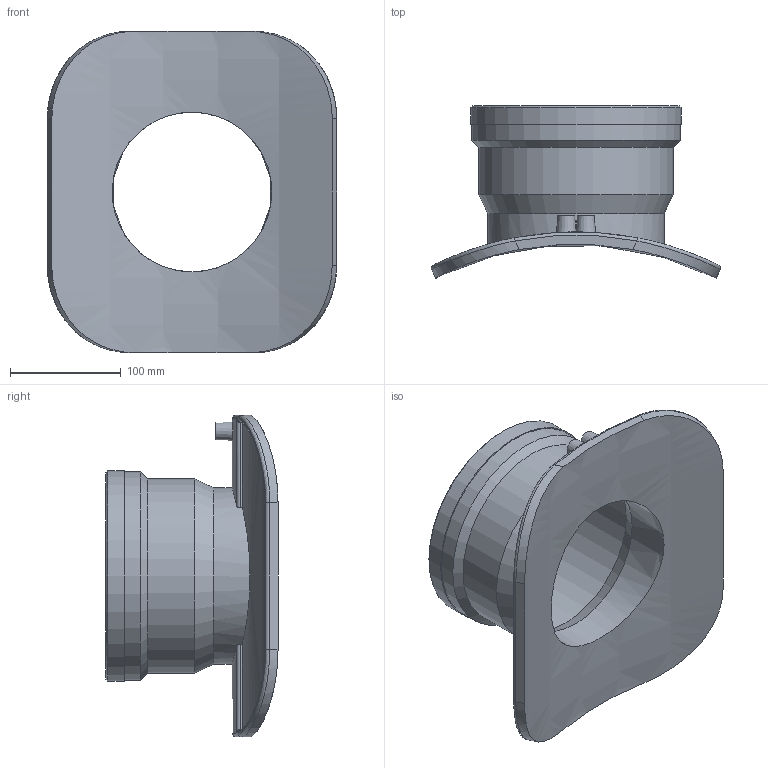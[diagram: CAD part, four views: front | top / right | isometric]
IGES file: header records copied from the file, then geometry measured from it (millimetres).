
Global section: file name: 4758V4560160.ipt; native system: Autodesk Inventor 2015; preprocessor: unknown; author: Кирилл,,11,0; organization: 20170830.202409; date: 20171106.093514; units: millimetre
Bounding box: 261.06 x 155.18 x 290 mm (x, y, z)
Volume: 1072211 mm3; surface area: 268017.1 mm2
Topology: 1 solids, 1 shells, 81 faces, 193 edges, 123 vertices
Faces by surface type: revolution 24, cylinder 22, plane 21, bspline 8, cone 6
Full cylindrical faces by diameter (mm): 4 x2, 159 x1, 160 x1, 175 x1, 188.1 x1, 190 x1
